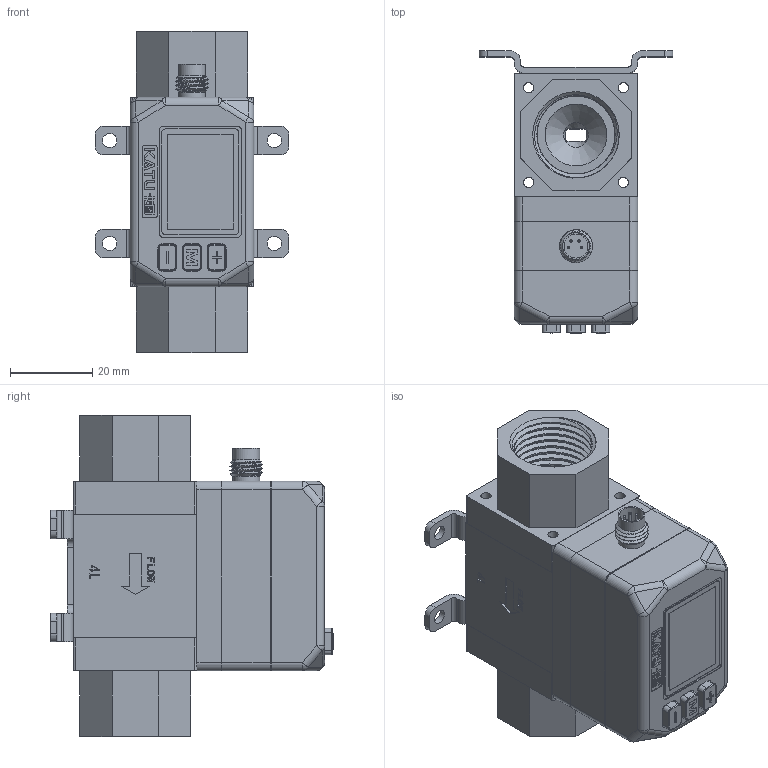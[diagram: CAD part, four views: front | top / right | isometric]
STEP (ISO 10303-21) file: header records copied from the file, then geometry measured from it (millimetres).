
FILE_DESCRIPTION( (''), '2;1');
FILE_NAME( 'QEKJ_4L_R1-2_M12_LED-display_bracket.step', '2023-12-14T18:03:15+08:00', (''), (''), '', '', '');
FILE_SCHEMA (('AUTOMOTIVE_DESIGN { 1 0 10303 214 3 1 1 1 }'));
Products named in the file (1): QEKJ 4L_R1-2_M12_LED-display_bracket
Bounding box: 47 x 68.6 x 78 mm (x, y, z)
Volume: 55954.9 mm3; surface area: 46109.2 mm2
Topology: 7 solids, 27 shells, 1437 faces, 3751 edges, 2466 vertices
Faces by surface type: plane 847, cylinder 304, extrusion 201, cone 32, torus 21, sphere 20, bspline 12
Full cylindrical faces by diameter (mm): 0.6 x4, 1.2 x3, 1.5 x4, 2 x12, 2.05 x4, 2.5 x12, 3 x18, 3.5 x7, 4 x1, 5 x4, 5.5 x1, 5.8 x2, 6 x2, 6.5 x2, 7.5 x1, 9.5 x2, 12 x3, 12.5 x2, 14 x1
Entity records: 56690 total; most frequent: CARTESIAN_POINT 19182, ORIENTED_EDGE 7110, DIRECTION 6390, EDGE_CURVE 3555, VECTOR 2626, LINE 2425, VERTEX_POINT 2406, AXIS2_PLACEMENT_3D 1882
